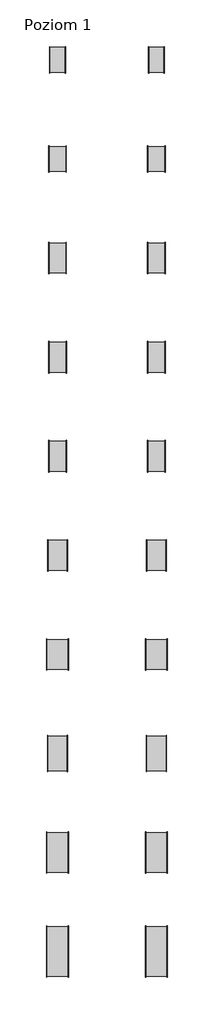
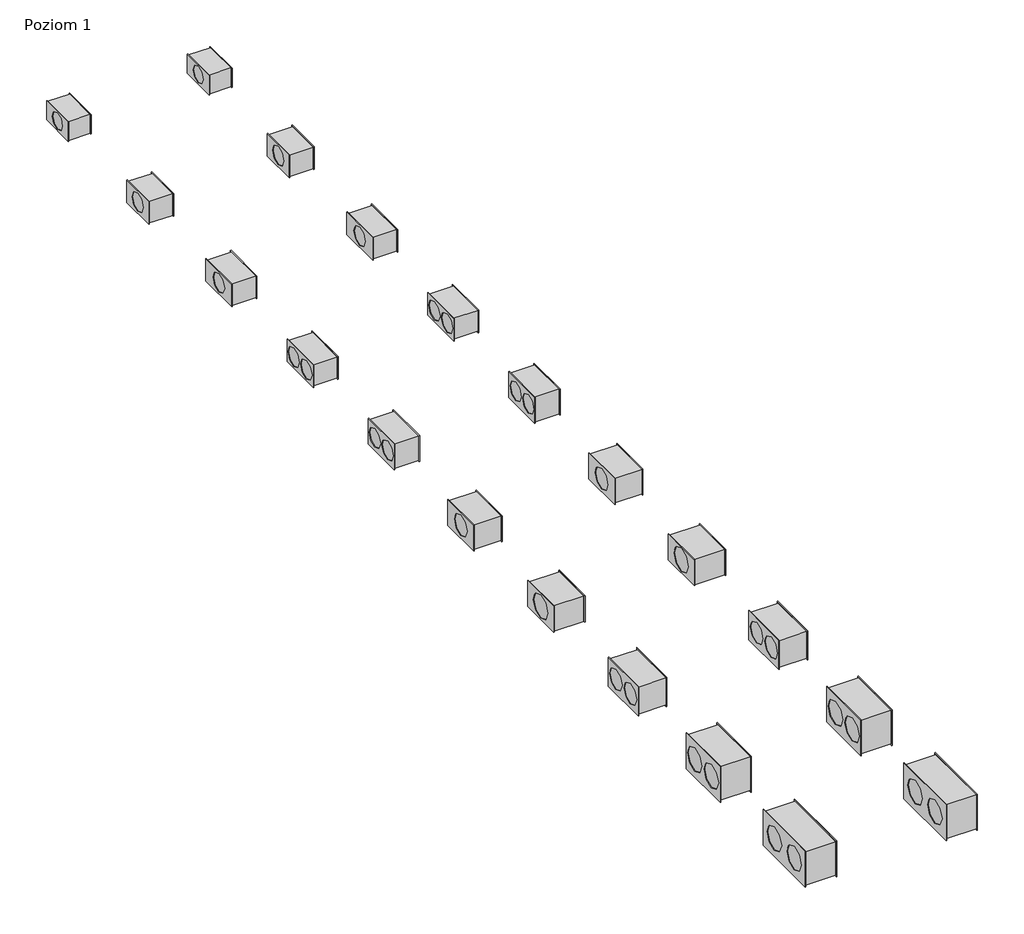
# One storey: 20 unitary equipment elements.
"""IFC4 building model written with IfcOpenShell, lengths in millimetres."""

from ifc_helpers import new_model, si_unit, origin, place, context, project, spatial, transform, mapped, element, save
from components import unitary_equipment_3027b97f, unitary_equipment_9b108a9d, unitary_equipment_d5b170d1, unitary_equipment_3133675a, unitary_equipment_565278f3, unitary_equipment_a1b0716b, unitary_equipment_5cf29a0a, unitary_equipment_0bbbc2e4, unitary_equipment_2dbf70ae, unitary_equipment_ff66f28f

model = new_model("IFC4")

# Units and contexts
model_context = context("Model", 3, world=origin())
ifc_project = project(units=[si_unit("LENGTHUNIT", "METRE", prefix="MILLI")], contexts=[model_context])

# Site, building, storey
site = spatial("IfcSite", under=ifc_project)
building = spatial("IfcBuilding", under=site)
storey = spatial("IfcBuildingStorey", under=building, Name="Poziom 1", Elevation=0.0)

# Unitary equipment
placement = place(None, origin())
unitary_equipment_shape = unitary_equipment_3027b97f(model_context)
element("IfcUnitaryEquipment", 1, ObjectType="VE-Wentylator-ParaForma-Harmann-JETTEC_REC-Nawiewny : 050/25/1700S", at=placement, inside=storey, context=model_context, shape_type="MappedRepresentation", body=[
    mapped(unitary_equipment_shape, transform((6582.5, 1000.0, 0.0), x_axis=(1.0, 0.0, 0.0), y_axis=(0.0, 1.0, 0.0), z_axis=(0.0, 0.0, 1.0))),
])
unitary_equipment_2_shape = unitary_equipment_9b108a9d(model_context)
element("IfcUnitaryEquipment", 2, ObjectType="VE-Wentylator-ParaForma-Harmann-JETTEC_REC-Nawiewny : 050/30/2400S", at=placement, inside=storey, context=model_context, shape_type="MappedRepresentation", body=[
    mapped(unitary_equipment_2_shape, transform((6582.5, -1000.0, 0.0), x_axis=(1.0, 0.0, 0.0), y_axis=(0.0, 1.0, 0.0), z_axis=(0.0, 0.0, 1.0))),
])
unitary_equipment_3_shape = unitary_equipment_d5b170d1(model_context)
element("IfcUnitaryEquipment", 3, ObjectType="VE-Wentylator-ParaForma-Harmann-JETTEC_REC-Nawiewny : 060/30/2400S", at=placement, inside=storey, context=model_context, shape_type="MappedRepresentation", body=[
    mapped(unitary_equipment_3_shape, transform((6582.5, -3000.0, 0.0), x_axis=(1.0, 0.0, 0.0), y_axis=(0.0, 1.0, 0.0), z_axis=(0.0, 0.0, 1.0))),
])
unitary_equipment_4_shape = unitary_equipment_3133675a(model_context)
element("IfcUnitaryEquipment", 4, ObjectType="VE-Wentylator-ParaForma-Harmann-JETTEC_REC-Nawiewny : 060/30/4900S", at=placement, inside=storey, context=model_context, shape_type="MappedRepresentation", body=[
    mapped(unitary_equipment_4_shape, transform((6582.5, -5000.0, 0.0), x_axis=(1.0, 0.0, 0.0), y_axis=(0.0, 1.0, 0.0), z_axis=(0.0, 0.0, 1.0))),
])
unitary_equipment_5_shape = unitary_equipment_565278f3(model_context)
element("IfcUnitaryEquipment", 5, ObjectType="VE-Wentylator-ParaForma-Harmann-JETTEC_REC-Nawiewny : 060/35/3500S", at=placement, inside=storey, context=model_context, shape_type="MappedRepresentation", body=[
    mapped(unitary_equipment_5_shape, transform((6582.5, -7000.0, 0.0), x_axis=(1.0, 0.0, 0.0), y_axis=(0.0, 1.0, 0.0), z_axis=(0.0, 0.0, 1.0))),
])
unitary_equipment_6_shape = unitary_equipment_a1b0716b(model_context)
element("IfcUnitaryEquipment", 6, ObjectType="VE-Wentylator-ParaForma-Harmann-JETTEC_REC-Nawiewny : 060/35/4900S", at=placement, inside=storey, context=model_context, shape_type="MappedRepresentation", body=[
    mapped(unitary_equipment_6_shape, transform((6582.5, -9000.0, 0.0), x_axis=(1.0, 0.0, 0.0), y_axis=(0.0, 1.0, 0.0), z_axis=(0.0, 0.0, 1.0))),
])
unitary_equipment_7_shape = unitary_equipment_5cf29a0a(model_context)
element("IfcUnitaryEquipment", 7, ObjectType="VE-Wentylator-ParaForma-Harmann-JETTEC_REC-Nawiewny : 060/35/5000S", at=placement, inside=storey, context=model_context, shape_type="MappedRepresentation", body=[
    mapped(unitary_equipment_7_shape, transform((6582.5, -11000.0, 0.0), x_axis=(1.0, 0.0, 0.0), y_axis=(0.0, 1.0, 0.0), z_axis=(0.0, 0.0, 1.0))),
])
unitary_equipment_8_shape = unitary_equipment_0bbbc2e4(model_context)
element("IfcUnitaryEquipment", 8, ObjectType="VE-Wentylator-ParaForma-Harmann-JETTEC_REC-Nawiewny : 070/40/7100S", at=placement, inside=storey, context=model_context, shape_type="MappedRepresentation", body=[
    mapped(unitary_equipment_8_shape, transform((6582.5, -13000.0, 0.0), x_axis=(1.0, 0.0, 0.0), y_axis=(0.0, 1.0, 0.0), z_axis=(0.0, 0.0, 1.0))),
])
unitary_equipment_9_shape = unitary_equipment_2dbf70ae(model_context)
element("IfcUnitaryEquipment", 9, ObjectType="VE-Wentylator-ParaForma-Harmann-JETTEC_REC-Nawiewny : 080/50/10000S", at=placement, inside=storey, context=model_context, shape_type="MappedRepresentation", body=[
    mapped(unitary_equipment_9_shape, transform((6582.5, -15000.0, 0.0), x_axis=(1.0, 0.0, 0.0), y_axis=(0.0, 1.0, 0.0), z_axis=(0.0, 0.0, 1.0))),
])
unitary_equipment_10_shape = unitary_equipment_ff66f28f(model_context)
element("IfcUnitaryEquipment", 10, ObjectType="VE-Wentylator-ParaForma-Harmann-JETTEC_REC-Nawiewny : 100/50/9900S", at=placement, inside=storey, context=model_context, shape_type="MappedRepresentation", body=[
    mapped(unitary_equipment_10_shape, transform((6582.5, -17000.0, 0.0), x_axis=(1.0, 0.0, 0.0), y_axis=(0.0, 1.0, 0.0), z_axis=(0.0, 0.0, 1.0))),
])
element("IfcUnitaryEquipment", 11, ObjectType="VE-Wentylator-ParaForma-Harmann-JETTEC_REC-Wywiewny : 050/25/1700S", at=placement, inside=storey, context=model_context, shape_type="MappedRepresentation", body=[
    mapped(unitary_equipment_shape, transform((4582.5, 1000.0, 0.0), x_axis=(1.0, 0.0, 0.0), y_axis=(0.0, 1.0, 0.0), z_axis=(0.0, 0.0, 1.0))),
])
element("IfcUnitaryEquipment", 12, ObjectType="VE-Wentylator-ParaForma-Harmann-JETTEC_REC-Wywiewny : 050/30/2400S", at=placement, inside=storey, context=model_context, shape_type="MappedRepresentation", body=[
    mapped(unitary_equipment_2_shape, transform((4582.5, -1000.0, 0.0), x_axis=(1.0, 0.0, 0.0), y_axis=(0.0, 1.0, 0.0), z_axis=(0.0, 0.0, 1.0))),
])
element("IfcUnitaryEquipment", 13, ObjectType="VE-Wentylator-ParaForma-Harmann-JETTEC_REC-Wywiewny : 060/30/2400S", at=placement, inside=storey, context=model_context, shape_type="MappedRepresentation", body=[
    mapped(unitary_equipment_3_shape, transform((4582.5, -3000.0, 0.0), x_axis=(1.0, 0.0, 0.0), y_axis=(0.0, 1.0, 0.0), z_axis=(0.0, 0.0, 1.0))),
])
element("IfcUnitaryEquipment", 14, ObjectType="VE-Wentylator-ParaForma-Harmann-JETTEC_REC-Wywiewny : 060/30/4900S", at=placement, inside=storey, context=model_context, shape_type="MappedRepresentation", body=[
    mapped(unitary_equipment_4_shape, transform((4582.5, -5000.0, 0.0), x_axis=(1.0, 0.0, 0.0), y_axis=(0.0, 1.0, 0.0), z_axis=(0.0, 0.0, 1.0))),
])
element("IfcUnitaryEquipment", 15, ObjectType="VE-Wentylator-ParaForma-Harmann-JETTEC_REC-Wywiewny : 060/35/3500S", at=placement, inside=storey, context=model_context, shape_type="MappedRepresentation", body=[
    mapped(unitary_equipment_5_shape, transform((4582.5, -7000.0, 0.0), x_axis=(1.0, 0.0, 0.0), y_axis=(0.0, 1.0, 0.0), z_axis=(0.0, 0.0, 1.0))),
])
element("IfcUnitaryEquipment", 16, ObjectType="VE-Wentylator-ParaForma-Harmann-JETTEC_REC-Wywiewny : 060/35/4900S", at=placement, inside=storey, context=model_context, shape_type="MappedRepresentation", body=[
    mapped(unitary_equipment_6_shape, transform((4582.5, -9000.0, 0.0), x_axis=(1.0, 0.0, 0.0), y_axis=(0.0, 1.0, 0.0), z_axis=(0.0, 0.0, 1.0))),
])
element("IfcUnitaryEquipment", 17, ObjectType="VE-Wentylator-ParaForma-Harmann-JETTEC_REC-Wywiewny : 060/35/5000S", at=placement, inside=storey, context=model_context, shape_type="MappedRepresentation", body=[
    mapped(unitary_equipment_7_shape, transform((4582.5, -11000.0, 0.0), x_axis=(1.0, 0.0, 0.0), y_axis=(0.0, 1.0, 0.0), z_axis=(0.0, 0.0, 1.0))),
])
element("IfcUnitaryEquipment", 18, ObjectType="VE-Wentylator-ParaForma-Harmann-JETTEC_REC-Wywiewny : 070/40/7100S", at=placement, inside=storey, context=model_context, shape_type="MappedRepresentation", body=[
    mapped(unitary_equipment_8_shape, transform((4582.5, -13000.0, 0.0), x_axis=(1.0, 0.0, 0.0), y_axis=(0.0, 1.0, 0.0), z_axis=(0.0, 0.0, 1.0))),
])
element("IfcUnitaryEquipment", 19, ObjectType="VE-Wentylator-ParaForma-Harmann-JETTEC_REC-Wywiewny : 080/50/10000S", at=placement, inside=storey, context=model_context, shape_type="MappedRepresentation", body=[
    mapped(unitary_equipment_9_shape, transform((4582.5, -15000.0, 0.0), x_axis=(1.0, 0.0, 0.0), y_axis=(0.0, 1.0, 0.0), z_axis=(0.0, 0.0, 1.0))),
])
element("IfcUnitaryEquipment", 20, ObjectType="VE-Wentylator-ParaForma-Harmann-JETTEC_REC-Wywiewny : 100/50/9900S", at=placement, inside=storey, context=model_context, shape_type="MappedRepresentation", body=[
    mapped(unitary_equipment_10_shape, transform((4582.5, -17000.0, 0.0), x_axis=(1.0, 0.0, 0.0), y_axis=(0.0, 1.0, 0.0), z_axis=(0.0, 0.0, 1.0))),
])

save(model, "model.ifc")
